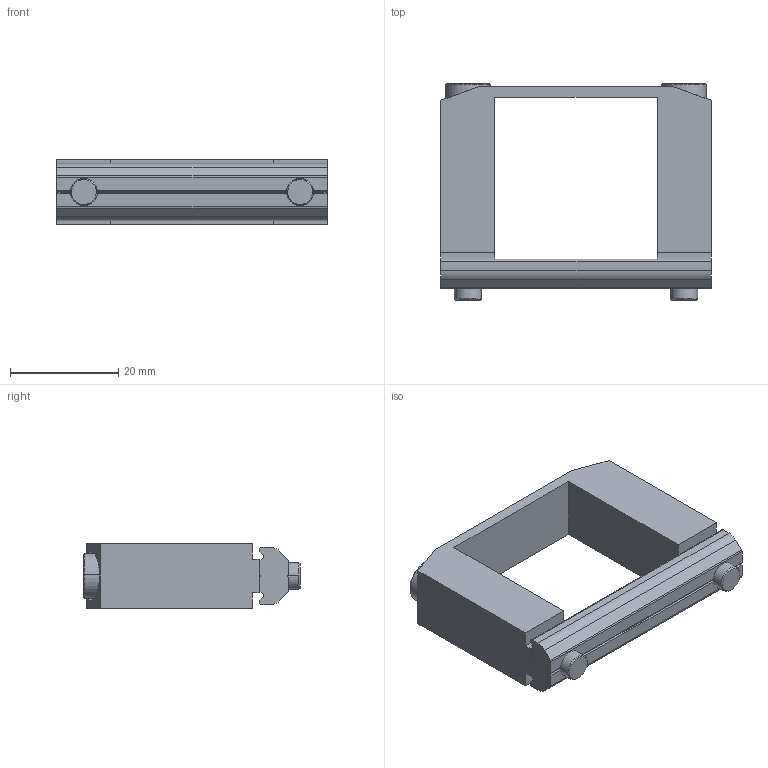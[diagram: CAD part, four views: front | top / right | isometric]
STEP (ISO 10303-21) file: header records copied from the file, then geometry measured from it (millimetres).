
FILE_DESCRIPTION (( 'STEP AP214' ), '1' );
FILE_NAME ('SMBB-3030.STEP', '2019-10-31T05:20:57', ( '微软用户' ), ( '微软中国' ), 'SwSTEP 2.0', 'SolidWorks 2016', '' );
FILE_SCHEMA (( 'AUTOMOTIVE_DESIGN' ));
Length unit declared in the file: millimetre
Products named in the file (5): SMBB-3030; PTN-M5P40; PTS-M5; PTC-M5L35
Assembly tree (6 placements, depth 2):
  SMBB-3030
    SMBB-3030
    PTC-M5L35  x2
    PTS-M5  x2
    PTN-M5P40
Bounding box: 50 x 40 x 12 mm (x, y, z)
Volume: 10726.1 mm3; surface area: 8488.5 mm2
Topology: 6 solids, 6 shells, 450 faces, 1314 edges, 872 vertices
Faces by surface type: plane 390, cylinder 46, cone 14
Entity records: 9216 total; most frequent: CARTESIAN_POINT 1795, ORIENTED_EDGE 1560, DIRECTION 1522, EDGE_CURVE 780, VERTEX_POINT 518, AXIS2_PLACEMENT_3D 509, LINE 504, VECTOR 504
